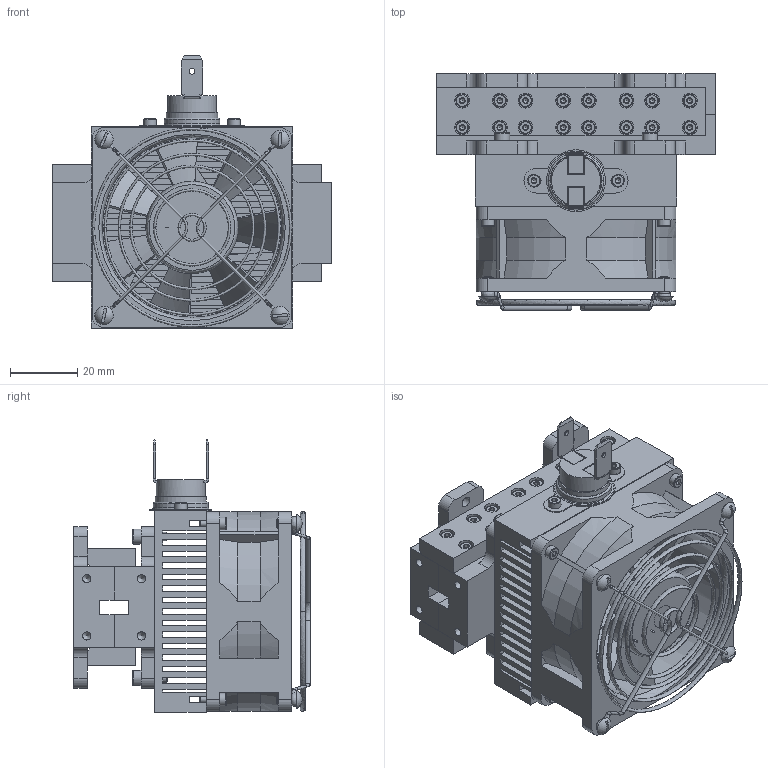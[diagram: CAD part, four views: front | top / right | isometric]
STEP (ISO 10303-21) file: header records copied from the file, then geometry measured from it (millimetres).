
FILE_DESCRIPTION(/* description */ ('Unknown'),/* implementation_level */ '2;1');
FILE_NAME(/* name */ 'asmpourmiseenligne2',/* time_stamp */ '2021-06-07T09:47:47+02:00',/* author */ ('ALG'),/* organization */ ('DETI'),/* preprocessor_version */ 'ST-DEVELOPER v16.7',/* originating_system */ 'Solid Edge',/* authorisation */ 'Unknown');
FILE_SCHEMA (('AUTOMOTIVE_DESIGN {1 0 10303 214 3 1 1}'));
Products named in the file (1): asmpourmiseenligne2
Bounding box: 83 x 70.35 x 81.13 mm (x, y, z)
Volume: 139255.4 mm3; surface area: 95319.7 mm2
Topology: 72 solids, 72 shells, 1611 faces, 3647 edges, 2335 vertices
Faces by surface type: plane 824, cylinder 308, cone 262, torus 159, bspline 54, sphere 4
Full cylindrical faces by diameter (mm): 1.567 x28, 1.778 x2, 2 x34, 2.15 x8, 2.2 x28, 2.459 x8, 2.5 x15, 2.7 x11, 3 x6, 3.2 x8, 3.8 x34, 4.4 x28, 4.5 x15, 5 x11, 7.128 x1, 14.605 x1, 15.24 x1, 16.51 x1, 27.5 x1, 53.5 x1
Entity records: 52351 total; most frequent: CARTESIAN_POINT 13349, DIRECTION 6604, ORIENTED_EDGE 5562, EDGE_CURVE 2781, FACE_BOUND 2661, AXIS2_PLACEMENT_3D 2636, EDGE_LOOP 2576, VERTEX_POINT 2240
